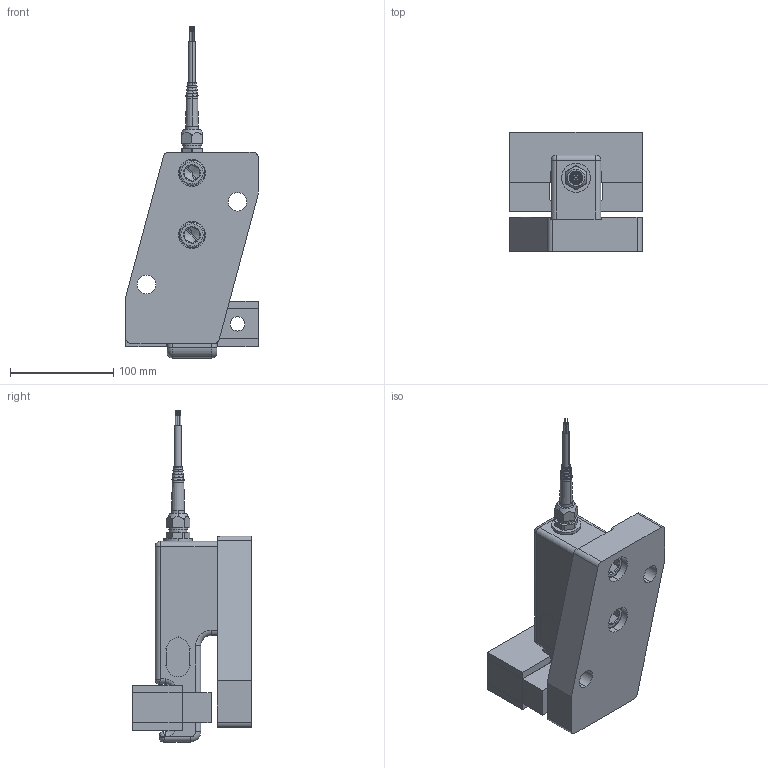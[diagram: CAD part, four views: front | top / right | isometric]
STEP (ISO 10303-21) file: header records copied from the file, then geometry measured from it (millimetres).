
FILE_DESCRIPTION (( 'STEP AP214' ), '1' );
FILE_NAME ('KIS-9 50 kN Module.STEP', '2021-06-30T11:53:28', ( '' ), ( '' ), 'SwSTEP 2.0', 'SolidWorks 2021', '' );
FILE_SCHEMA (( 'AUTOMOTIVE_DESIGN' ));
Length unit declared in the file: millimetre
Products named in the file (11): 400326r0; 600265r1 Tippskydd KIS-9 50 kN; 500382r0; Pg9 - 1009.52 6_2_14; M26x1.5 - Pg9 - 6369829; M16x25; 600263r0; Kabel; 600264r0; KIS-9 50 kN Module; Skyddsplåt KIS-9 50 kN
Assembly tree (12 placements, depth 2):
  KIS-9 50 kN Module
    500382r0
    400326r0
    M16x25  x2
    Skyddsplåt KIS-9 50 kN  x2
    600264r0
    M26x1.5 - Pg9 - 6369829
    Pg9 - 1009.52 6_2_14
    Kabel
    600263r0
    600265r1 Tippskydd KIS-9 50 kN
Bounding box: 128 x 115 x 321 mm (x, y, z)
Volume: 1422533.6 mm3; surface area: 205405.6 mm2
Topology: 12 solids, 15 shells, 433 faces, 988 edges, 602 vertices
Faces by surface type: cylinder 163, plane 149, cone 67, torus 26, bspline 26, sphere 2
Entity records: 16720 total; most frequent: CARTESIAN_POINT 6717, DIRECTION 1898, ORIENTED_EDGE 1794, EDGE_CURVE 897, AXIS2_PLACEMENT_3D 763, VERTEX_POINT 559, EDGE_LOOP 448, ADVANCED_FACE 391
